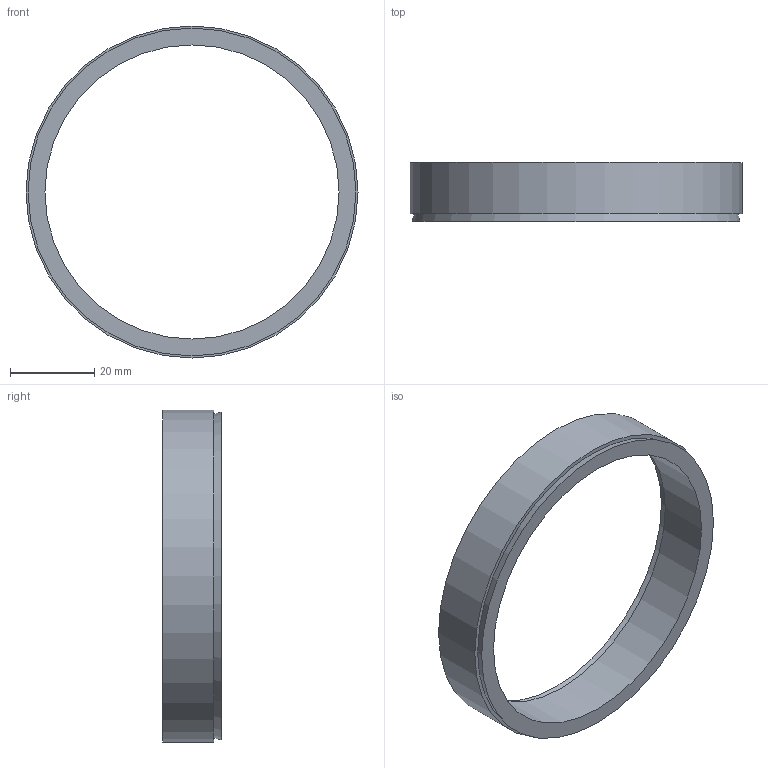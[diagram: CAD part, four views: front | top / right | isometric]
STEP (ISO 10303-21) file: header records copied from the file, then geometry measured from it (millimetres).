
FILE_DESCRIPTION( ( 'Unknown' ), '1' );
FILE_NAME( 'C:/Dokumente und Einstellungen/Sven/Desktop/homepage/cad - homepage/KBS50/KBS 50 - 70 x 79.stp', 'Unknown', ( 'Unknown' ), ( 'Unknown' ), 'XStep 1.0', 'Unknown', ' ' );
FILE_SCHEMA( ( 'automotive_design' ) );
Length unit declared in the file: millimetre
Products named in the file (1): 1
Bounding box: 79 x 14 x 79 mm (x, y, z)
Volume: 14134.2 mm3; surface area: 8896.4 mm2
Topology: 1 solids, 1 shells, 8 faces, 12 edges, 8 vertices
Faces by surface type: plane 4, cylinder 2, cone 2
Full cylindrical faces by diameter (mm): 70 x1, 79 x1
Entity records: 248 total; most frequent: DIRECTION 34, CARTESIAN_POINT 25, AXIS2_PLACEMENT_3D 17, EDGE_LOOP 16, ORIENTED_EDGE 16, FACE_OUTER_BOUND 10, STYLED_ITEM 8, PRESENTATION_STYLE_ASSIGNMENT 8
